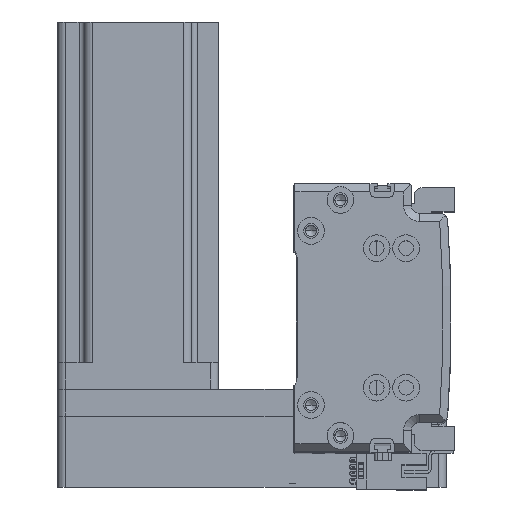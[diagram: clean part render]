
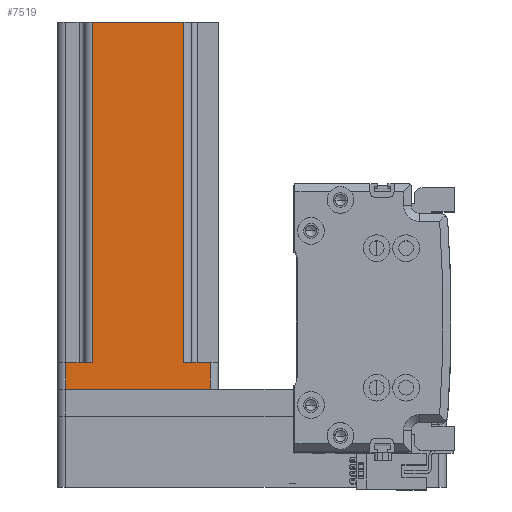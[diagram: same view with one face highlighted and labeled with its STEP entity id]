
A CAD part, top view. The second image highlights one B-rep face of the part: STEP entity #7519.
In plain terms, the highlighted planar face has unit normal (0, 0, 1) as drawn and (0, 1, 0) by its records, which use the part's own axes.
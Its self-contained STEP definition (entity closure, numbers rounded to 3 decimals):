
#1460 = DIRECTION ( 'NONE',  ( 0., 0., 1. ) ) ;
#1889 = DIRECTION ( 'NONE',  ( 0., 0., 1. ) ) ;
#2766 = CARTESIAN_POINT ( 'NONE',  ( 30., 30., 137. ) ) ;
#3450 = EDGE_CURVE ( 'NONE', #30595, #39602, #23533, .T. ) ;
#4350 = VERTEX_POINT ( 'NONE', #44434 ) ;
#4363 = CARTESIAN_POINT ( 'NONE',  ( -17., 30., 137. ) ) ;
#6228 = DIRECTION ( 'NONE',  ( 1., 0., 0. ) ) ;
#6299 = AXIS2_PLACEMENT_3D ( 'NONE', #2766, #27093, #6228 ) ;
#7132 = CARTESIAN_POINT ( 'NONE',  ( 17., 30., 137. ) ) ;
#7519 = ADVANCED_FACE ( 'NONE', ( #9563 ), #44202, .F. ) ;
#7652 = LINE ( 'NONE', #33804, #43658 ) ;
#7795 = VECTOR ( 'NONE', #40094, 1000. ) ;
#8505 = VECTOR ( 'NONE', #14107, 1000. ) ;
#8990 = LINE ( 'NONE', #36212, #26446 ) ;
#9563 = FACE_OUTER_BOUND ( 'NONE', #41131, .T. ) ;
#11599 = LINE ( 'NONE', #25449, #19791 ) ;
#11664 = EDGE_CURVE ( 'NONE', #30595, #17074, #44194, .T. ) ;
#11730 = CARTESIAN_POINT ( 'NONE',  ( 27., 30., 10. ) ) ;
#11865 = VERTEX_POINT ( 'NONE', #16103 ) ;
#12910 = DIRECTION ( 'NONE',  ( -1., 0., 0. ) ) ;
#14107 = DIRECTION ( 'NONE',  ( 0., 0., -1. ) ) ;
#15446 = EDGE_CURVE ( 'NONE', #32141, #11865, #17040, .T. ) ;
#16103 = CARTESIAN_POINT ( 'NONE',  ( -27., 30., 0. ) ) ;
#16368 = VECTOR ( 'NONE', #21131, 1000. ) ;
#16379 = ORIENTED_EDGE ( 'NONE', *, *, #11664, .T. ) ;
#16996 = ORIENTED_EDGE ( 'NONE', *, *, #15446, .T. ) ;
#17040 = LINE ( 'NONE', #36586, #7795 ) ;
#17074 = VERTEX_POINT ( 'NONE', #26693 ) ;
#19374 = VERTEX_POINT ( 'NONE', #11730 ) ;
#19791 = VECTOR ( 'NONE', #42825, 1000. ) ;
#20910 = CARTESIAN_POINT ( 'NONE',  ( 17., 30., 137. ) ) ;
#20942 = CARTESIAN_POINT ( 'NONE',  ( 27., 30., 137. ) ) ;
#21131 = DIRECTION ( 'NONE',  ( 0., 0., -1. ) ) ;
#21867 = EDGE_CURVE ( 'NONE', #19374, #32141, #28125, .T. ) ;
#22870 = CARTESIAN_POINT ( 'NONE',  ( -17., 30., 137. ) ) ;
#23533 = LINE ( 'NONE', #32381, #31720 ) ;
#24923 = VECTOR ( 'NONE', #1889, 1000. ) ;
#25449 = CARTESIAN_POINT ( 'NONE',  ( -20., 30., 10. ) ) ;
#25709 = ORIENTED_EDGE ( 'NONE', *, *, #36036, .F. ) ;
#26036 = LINE ( 'NONE', #22870, #24923 ) ;
#26151 = ORIENTED_EDGE ( 'NONE', *, *, #3450, .F. ) ;
#26446 = VECTOR ( 'NONE', #1460, 1000. ) ;
#26693 = CARTESIAN_POINT ( 'NONE',  ( 17., 30., 10. ) ) ;
#27093 = DIRECTION ( 'NONE',  ( 0., -1., 0. ) ) ;
#28125 = LINE ( 'NONE', #20942, #8505 ) ;
#29696 = EDGE_CURVE ( 'NONE', #4350, #39602, #26036, .T. ) ;
#30595 = VERTEX_POINT ( 'NONE', #20910 ) ;
#31249 = EDGE_CURVE ( 'NONE', #38474, #4350, #11599, .T. ) ;
#31720 = VECTOR ( 'NONE', #39394, 1000. ) ;
#32141 = VERTEX_POINT ( 'NONE', #42958 ) ;
#32381 = CARTESIAN_POINT ( 'NONE',  ( 30., 30., 137. ) ) ;
#33592 = ORIENTED_EDGE ( 'NONE', *, *, #21867, .T. ) ;
#33804 = CARTESIAN_POINT ( 'NONE',  ( 20., 30., 10. ) ) ;
#34500 = CARTESIAN_POINT ( 'NONE',  ( -27., 30., 10. ) ) ;
#36036 = EDGE_CURVE ( 'NONE', #19374, #17074, #7652, .T. ) ;
#36212 = CARTESIAN_POINT ( 'NONE',  ( -27., 30., 137. ) ) ;
#36586 = CARTESIAN_POINT ( 'NONE',  ( 30., 30., 0. ) ) ;
#38474 = VERTEX_POINT ( 'NONE', #34500 ) ;
#38737 = ORIENTED_EDGE ( 'NONE', *, *, #29696, .T. ) ;
#39394 = DIRECTION ( 'NONE',  ( -1., 0., 0. ) ) ;
#39602 = VERTEX_POINT ( 'NONE', #4363 ) ;
#39715 = ORIENTED_EDGE ( 'NONE', *, *, #41493, .T. ) ;
#40094 = DIRECTION ( 'NONE',  ( -1., 0., 0. ) ) ;
#41131 = EDGE_LOOP ( 'NONE', ( #45034, #38737, #26151, #16379, #25709, #33592, #16996, #39715 ) ) ;
#41493 = EDGE_CURVE ( 'NONE', #11865, #38474, #8990, .T. ) ;
#42825 = DIRECTION ( 'NONE',  ( 1., 0., 0. ) ) ;
#42958 = CARTESIAN_POINT ( 'NONE',  ( 27., 30., 0. ) ) ;
#43658 = VECTOR ( 'NONE', #12910, 1000. ) ;
#44194 = LINE ( 'NONE', #7132, #16368 ) ;
#44202 = PLANE ( 'NONE',  #6299 ) ;
#44434 = CARTESIAN_POINT ( 'NONE',  ( -17., 30., 10. ) ) ;
#45034 = ORIENTED_EDGE ( 'NONE', *, *, #31249, .T. ) ;
